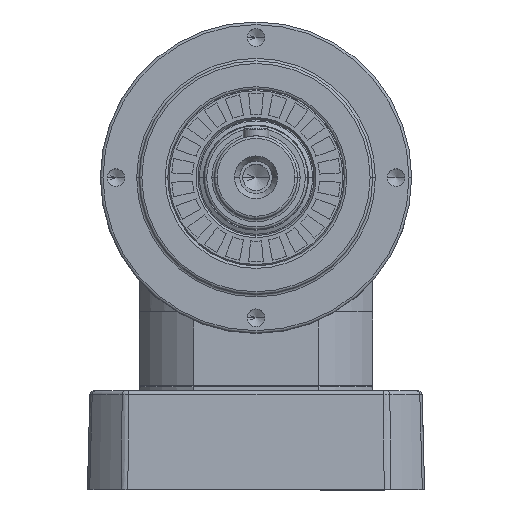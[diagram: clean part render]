
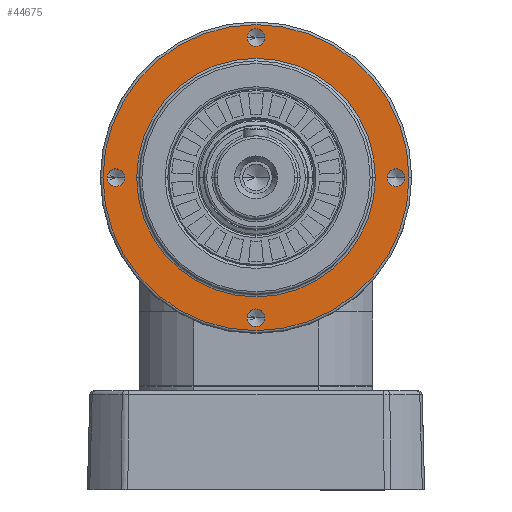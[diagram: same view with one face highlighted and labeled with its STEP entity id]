
A CAD part, top view. The second image highlights one B-rep face of the part: STEP entity #44675.
In plain terms, the highlighted planar face has unit normal (0, 0, 1).
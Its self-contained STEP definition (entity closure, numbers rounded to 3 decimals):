
#72 = EDGE_LOOP ( 'NONE', ( #59914, #18506 ) ) ;
#339 = DIRECTION ( 'NONE',  ( 0., 0., -1. ) ) ;
#473 = CARTESIAN_POINT ( 'NONE',  ( 50.6, 0., 63.5 ) ) ;
#2255 = ORIENTED_EDGE ( 'NONE', *, *, #56801, .T. ) ;
#2505 = FACE_BOUND ( 'NONE', #19927, .T. ) ;
#3592 = CARTESIAN_POINT ( 'NONE',  ( 0., -54., 63.5 ) ) ;
#3671 = CARTESIAN_POINT ( 'NONE',  ( -54., 0., 63.5 ) ) ;
#3674 = DIRECTION ( 'NONE',  ( 0., 0., -1. ) ) ;
#4343 = EDGE_CURVE ( 'NONE', #17712, #48950, #20433, .T. ) ;
#4682 = EDGE_LOOP ( 'NONE', ( #4892, #6670 ) ) ;
#4892 = ORIENTED_EDGE ( 'NONE', *, *, #57392, .T. ) ;
#5097 = DIRECTION ( 'NONE',  ( 0., 0., -1. ) ) ;
#5571 = CARTESIAN_POINT ( 'NONE',  ( -54., 0., 63.5 ) ) ;
#5908 = CIRCLE ( 'NONE', #50830, 46. ) ;
#6670 = ORIENTED_EDGE ( 'NONE', *, *, #40295, .T. ) ;
#7301 = VERTEX_POINT ( 'NONE', #11070 ) ;
#7413 = FACE_OUTER_BOUND ( 'NONE', #51511, .T. ) ;
#7429 = DIRECTION ( 'NONE',  ( 0., 0., -1. ) ) ;
#8628 = CARTESIAN_POINT ( 'NONE',  ( 59., 0., 63.5 ) ) ;
#8930 = VERTEX_POINT ( 'NONE', #50548 ) ;
#9561 = CIRCLE ( 'NONE', #52472, 46. ) ;
#11070 = CARTESIAN_POINT ( 'NONE',  ( 46., 0., 63.5 ) ) ;
#11279 = CIRCLE ( 'NONE', #26986, 3.4 ) ;
#11664 = ORIENTED_EDGE ( 'NONE', *, *, #18747, .T. ) ;
#12552 = CIRCLE ( 'NONE', #37666, 3.4 ) ;
#12614 = FACE_BOUND ( 'NONE', #19116, .T. ) ;
#12831 = VERTEX_POINT ( 'NONE', #33233 ) ;
#12977 = EDGE_CURVE ( 'NONE', #48950, #17712, #28141, .T. ) ;
#13665 = DIRECTION ( 'NONE',  ( 0., 0., -1. ) ) ;
#14771 = CARTESIAN_POINT ( 'NONE',  ( -59., 0., 63.5 ) ) ;
#15490 = DIRECTION ( 'NONE',  ( 1., 0., 0. ) ) ;
#15730 = ORIENTED_EDGE ( 'NONE', *, *, #64270, .T. ) ;
#17523 = CARTESIAN_POINT ( 'NONE',  ( 54., 0., 63.5 ) ) ;
#17712 = VERTEX_POINT ( 'NONE', #14771 ) ;
#18295 = CIRCLE ( 'NONE', #39227, 3.4 ) ;
#18506 = ORIENTED_EDGE ( 'NONE', *, *, #25798, .T. ) ;
#18747 = EDGE_CURVE ( 'NONE', #12831, #63621, #23227, .T. ) ;
#19116 = EDGE_LOOP ( 'NONE', ( #24002, #20683 ) ) ;
#19465 = CARTESIAN_POINT ( 'NONE',  ( 0., 0., 63.5 ) ) ;
#19927 = EDGE_LOOP ( 'NONE', ( #2255, #15730 ) ) ;
#20051 = AXIS2_PLACEMENT_3D ( 'NONE', #17523, #7429, #62069 ) ;
#20433 = CIRCLE ( 'NONE', #54940, 59. ) ;
#20683 = ORIENTED_EDGE ( 'NONE', *, *, #21618, .T. ) ;
#20705 = DIRECTION ( 'NONE',  ( 1., 0., 0. ) ) ;
#20962 = VERTEX_POINT ( 'NONE', #473 ) ;
#21618 = EDGE_CURVE ( 'NONE', #8930, #55244, #46226, .T. ) ;
#21805 = ORIENTED_EDGE ( 'NONE', *, *, #4343, .F. ) ;
#22393 = ORIENTED_EDGE ( 'NONE', *, *, #12977, .F. ) ;
#23227 = CIRCLE ( 'NONE', #53563, 3.4 ) ;
#24002 = ORIENTED_EDGE ( 'NONE', *, *, #51703, .T. ) ;
#24676 = CARTESIAN_POINT ( 'NONE',  ( 0., 0., 63.5 ) ) ;
#25151 = DIRECTION ( 'NONE',  ( 0., 0., -1. ) ) ;
#25179 = VERTEX_POINT ( 'NONE', #34610 ) ;
#25333 = CARTESIAN_POINT ( 'NONE',  ( 0., 0., 63.5 ) ) ;
#25798 = EDGE_CURVE ( 'NONE', #25179, #35235, #28769, .T. ) ;
#26986 = AXIS2_PLACEMENT_3D ( 'NONE', #5571, #339, #55618 ) ;
#27218 = CIRCLE ( 'NONE', #41873, 3.4 ) ;
#27607 = CARTESIAN_POINT ( 'NONE',  ( -3.4, 54., 63.5 ) ) ;
#27671 = VERTEX_POINT ( 'NONE', #41320 ) ;
#28141 = CIRCLE ( 'NONE', #64713, 59. ) ;
#28769 = CIRCLE ( 'NONE', #50715, 3.4 ) ;
#28985 = DIRECTION ( 'NONE',  ( 0., 0., -1. ) ) ;
#29590 = DIRECTION ( 'NONE',  ( 1., 0., 0. ) ) ;
#33233 = CARTESIAN_POINT ( 'NONE',  ( 3.4, 54., 63.5 ) ) ;
#33646 = DIRECTION ( 'NONE',  ( 0., 0., -1. ) ) ;
#34610 = CARTESIAN_POINT ( 'NONE',  ( -57.4, 0., 63.5 ) ) ;
#35235 = VERTEX_POINT ( 'NONE', #41282 ) ;
#37164 = FACE_BOUND ( 'NONE', #4682, .T. ) ;
#37329 = DIRECTION ( 'NONE',  ( 0., 0., -1. ) ) ;
#37495 = DIRECTION ( 'NONE',  ( 0., 0., 1. ) ) ;
#37666 = AXIS2_PLACEMENT_3D ( 'NONE', #3592, #33646, #53639 ) ;
#39138 = DIRECTION ( 'NONE',  ( 1., 0., 0. ) ) ;
#39227 = AXIS2_PLACEMENT_3D ( 'NONE', #40055, #13665, #20705 ) ;
#39291 = DIRECTION ( 'NONE',  ( 1., 0., 0. ) ) ;
#40055 = CARTESIAN_POINT ( 'NONE',  ( 54., 0., 63.5 ) ) ;
#40295 = EDGE_CURVE ( 'NONE', #20962, #54950, #18295, .T. ) ;
#40308 = AXIS2_PLACEMENT_3D ( 'NONE', #43377, #37495, #57486 ) ;
#41282 = CARTESIAN_POINT ( 'NONE',  ( -50.6, 0., 63.5 ) ) ;
#41320 = CARTESIAN_POINT ( 'NONE',  ( -46., 0., 63.5 ) ) ;
#41873 = AXIS2_PLACEMENT_3D ( 'NONE', #53722, #3674, #39291 ) ;
#43058 = FACE_BOUND ( 'NONE', #57586, .T. ) ;
#43127 = AXIS2_PLACEMENT_3D ( 'NONE', #49613, #43723, #59115 ) ;
#43246 = DIRECTION ( 'NONE',  ( 0., 0., -1. ) ) ;
#43377 = CARTESIAN_POINT ( 'NONE',  ( 0., 0., 63.5 ) ) ;
#43723 = DIRECTION ( 'NONE',  ( 0., 0., -1. ) ) ;
#44675 = ADVANCED_FACE ( 'NONE', ( #37164, #12614, #57152, #43058, #7413, #2505 ), #62381, .T. ) ;
#46226 = CIRCLE ( 'NONE', #43127, 3.4 ) ;
#48146 = DIRECTION ( 'NONE',  ( 1., 0., 0. ) ) ;
#48273 = EDGE_CURVE ( 'NONE', #35235, #25179, #11279, .T. ) ;
#48950 = VERTEX_POINT ( 'NONE', #8628 ) ;
#49613 = CARTESIAN_POINT ( 'NONE',  ( 0., -54., 63.5 ) ) ;
#50548 = CARTESIAN_POINT ( 'NONE',  ( -3.4, -54., 63.5 ) ) ;
#50715 = AXIS2_PLACEMENT_3D ( 'NONE', #3671, #43246, #63229 ) ;
#50830 = AXIS2_PLACEMENT_3D ( 'NONE', #25333, #28985, #39138 ) ;
#51356 = ORIENTED_EDGE ( 'NONE', *, *, #52209, .T. ) ;
#51511 = EDGE_LOOP ( 'NONE', ( #22393, #21805 ) ) ;
#51703 = EDGE_CURVE ( 'NONE', #55244, #8930, #12552, .T. ) ;
#52209 = EDGE_CURVE ( 'NONE', #63621, #12831, #27218, .T. ) ;
#52472 = AXIS2_PLACEMENT_3D ( 'NONE', #54644, #25151, #60178 ) ;
#53563 = AXIS2_PLACEMENT_3D ( 'NONE', #62541, #37329, #48146 ) ;
#53639 = DIRECTION ( 'NONE',  ( 1., 0., 0. ) ) ;
#53722 = CARTESIAN_POINT ( 'NONE',  ( 0., 54., 63.5 ) ) ;
#54644 = CARTESIAN_POINT ( 'NONE',  ( 0., 0., 63.5 ) ) ;
#54940 = AXIS2_PLACEMENT_3D ( 'NONE', #19465, #5097, #15490 ) ;
#54950 = VERTEX_POINT ( 'NONE', #63677 ) ;
#55244 = VERTEX_POINT ( 'NONE', #61637 ) ;
#55618 = DIRECTION ( 'NONE',  ( 1., 0., 0. ) ) ;
#56801 = EDGE_CURVE ( 'NONE', #7301, #27671, #9561, .T. ) ;
#57152 = FACE_BOUND ( 'NONE', #72, .T. ) ;
#57392 = EDGE_CURVE ( 'NONE', #54950, #20962, #64019, .T. ) ;
#57486 = DIRECTION ( 'NONE',  ( 1., 0., 0. ) ) ;
#57586 = EDGE_LOOP ( 'NONE', ( #11664, #51356 ) ) ;
#59115 = DIRECTION ( 'NONE',  ( 1., 0., 0. ) ) ;
#59406 = DIRECTION ( 'NONE',  ( 0., 0., -1. ) ) ;
#59914 = ORIENTED_EDGE ( 'NONE', *, *, #48273, .T. ) ;
#60178 = DIRECTION ( 'NONE',  ( 1., 0., 0. ) ) ;
#61637 = CARTESIAN_POINT ( 'NONE',  ( 3.4, -54., 63.5 ) ) ;
#62069 = DIRECTION ( 'NONE',  ( 1., 0., 0. ) ) ;
#62381 = PLANE ( 'NONE',  #40308 ) ;
#62541 = CARTESIAN_POINT ( 'NONE',  ( 0., 54., 63.5 ) ) ;
#63229 = DIRECTION ( 'NONE',  ( 1., 0., 0. ) ) ;
#63621 = VERTEX_POINT ( 'NONE', #27607 ) ;
#63677 = CARTESIAN_POINT ( 'NONE',  ( 57.4, 0., 63.5 ) ) ;
#64019 = CIRCLE ( 'NONE', #20051, 3.4 ) ;
#64270 = EDGE_CURVE ( 'NONE', #27671, #7301, #5908, .T. ) ;
#64713 = AXIS2_PLACEMENT_3D ( 'NONE', #24676, #59406, #29590 ) ;
